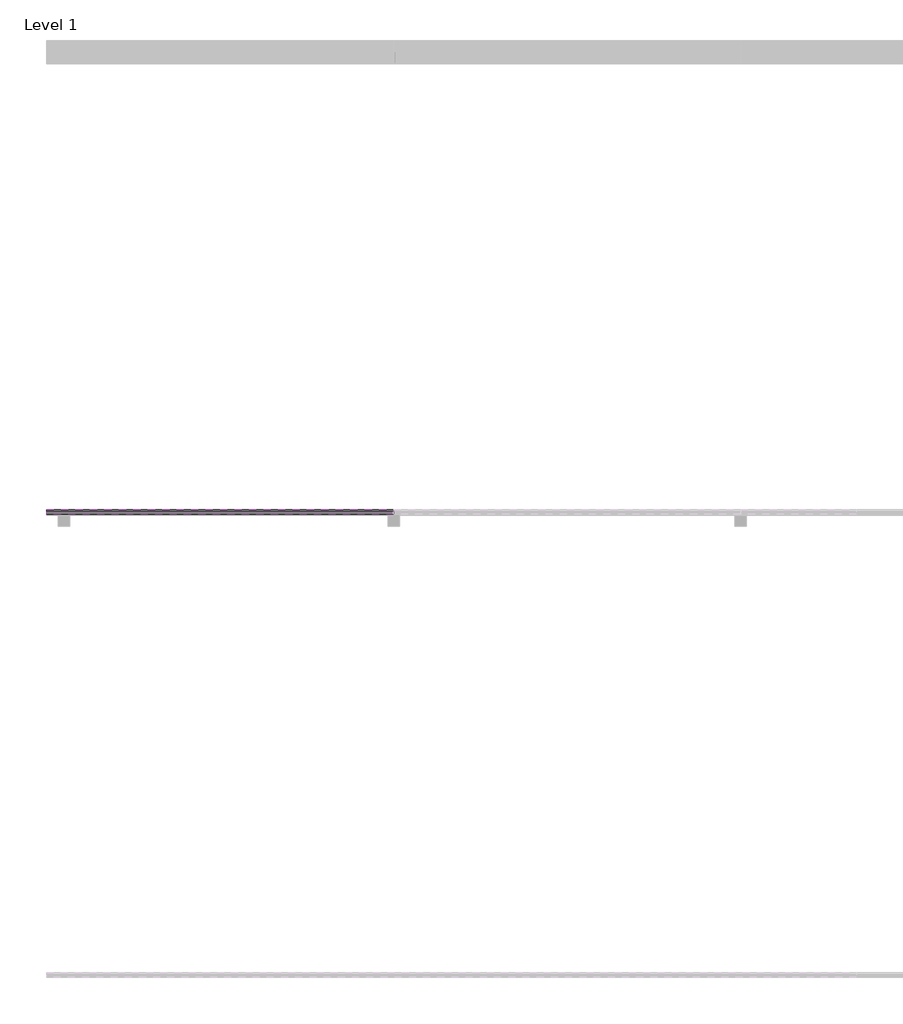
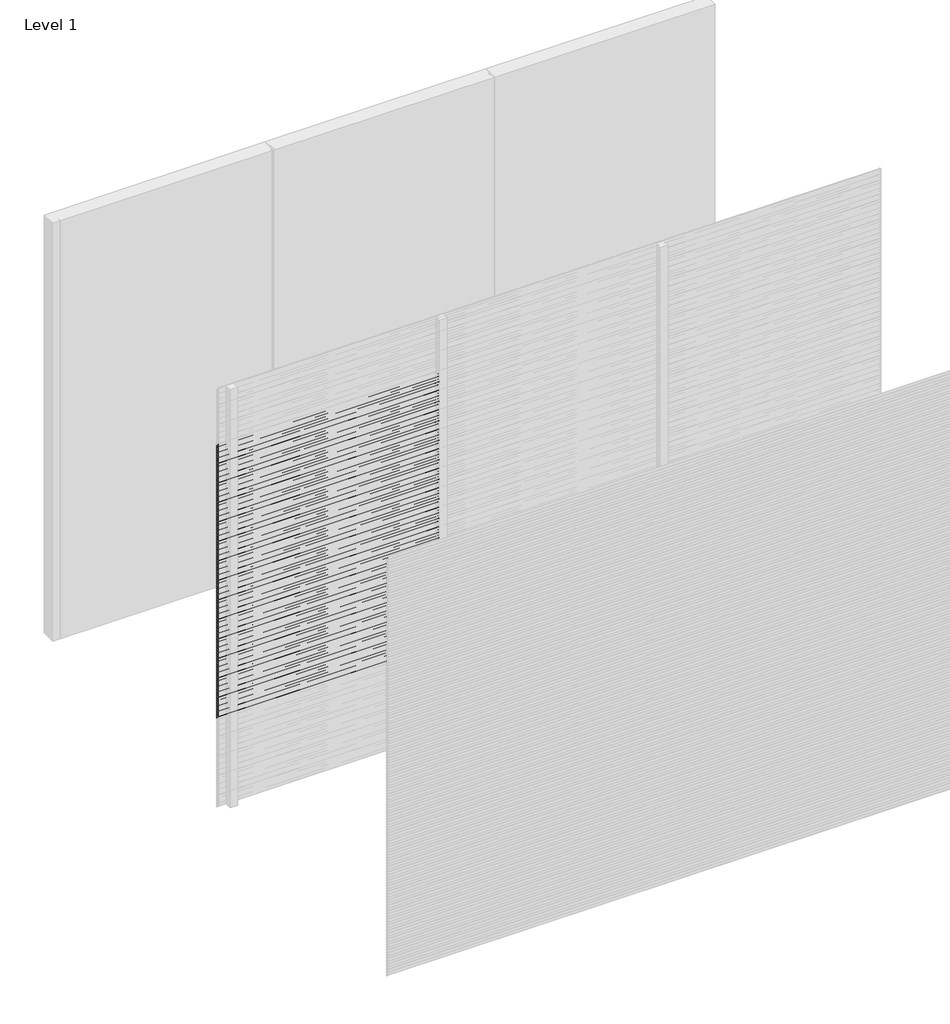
# One storey, part 11 of 31: 98 proxies.
"""IFC4 building model written with IfcOpenShell, lengths in millimetres."""

from ifc_helpers import new_model, si_unit, frame, origin, place, context, project, spatial, polyline, outline, extrude, element, save

model = new_model("IFC4")

# Units and contexts
model_context = context("Model", 3, world=origin())
ifc_project = project(units=[si_unit("LENGTHUNIT", "METRE", prefix="MILLI")], contexts=[model_context])

# Site, building, storey
site = spatial("IfcSite", under=ifc_project)
building = spatial("IfcBuilding", under=site)
storey = spatial("IfcBuildingStorey", under=building, Name="Level 1", Elevation=0.0)

# Proxies
placement = place(None, origin())
element("IfcBuildingElementProxy", 1, Name="Wall Sweeps", at=placement, inside=storey, context=model_context, shape_type="SweptSolid", body=[
    extrude(outline(polyline([(-11995.0, 2600.0), (-11995.0, 2588.942893), (-11976.0, 2573.0), (-11976.0, 2560.0), (-11997.0, 2577.6210923), (-11997.0, 2600.0), (-11995.0, 2600.0)])), frame((0.0, 0.0, 0.0), z_axis=(1.0, 0.0, 0.0), x_axis=(0.0, 1.0, 0.0)), (0.0, 0.0, 1.0), 1500.0),
])
element("IfcBuildingElementProxy", 2, Name="Wall Sweeps", at=placement, inside=storey, context=model_context, shape_type="SweptSolid", body=[
    extrude(outline(polyline([(-11995.0, 2580.0), (-11995.0, 2568.942893), (-11976.0, 2553.0), (-11976.0, 2540.0), (-11997.0, 2557.6210923), (-11997.0, 2580.0), (-11995.0, 2580.0)])), frame((0.0, 0.0, 0.0), z_axis=(1.0, 0.0, 0.0), x_axis=(0.0, 1.0, 0.0)), (0.0, 0.0, 1.0), 1500.0),
])
element("IfcBuildingElementProxy", 3, Name="Wall Sweeps", at=placement, inside=storey, context=model_context, shape_type="SweptSolid", body=[
    extrude(outline(polyline([(-11995.0, 2560.0), (-11995.0, 2548.942893), (-11976.0, 2533.0), (-11976.0, 2520.0), (-11997.0, 2537.6210923), (-11997.0, 2560.0), (-11995.0, 2560.0)])), frame((0.0, 0.0, 0.0), z_axis=(1.0, 0.0, 0.0), x_axis=(0.0, 1.0, 0.0)), (0.0, 0.0, 1.0), 1500.0),
])
element("IfcBuildingElementProxy", 4, Name="Wall Sweeps", at=placement, inside=storey, context=model_context, shape_type="SweptSolid", body=[
    extrude(outline(polyline([(-11995.0, 2540.0), (-11995.0, 2528.942893), (-11976.0, 2513.0), (-11976.0, 2500.0), (-11997.0, 2517.6210923), (-11997.0, 2540.0), (-11995.0, 2540.0)])), frame((0.0, 0.0, 0.0), z_axis=(1.0, 0.0, 0.0), x_axis=(0.0, 1.0, 0.0)), (0.0, 0.0, 1.0), 1500.0),
])
element("IfcBuildingElementProxy", 5, Name="Wall Sweeps", at=placement, inside=storey, context=model_context, shape_type="SweptSolid", body=[
    extrude(outline(polyline([(-11995.0, 2520.0), (-11995.0, 2508.942893), (-11976.0, 2493.0), (-11976.0, 2480.0), (-11997.0, 2497.6210923), (-11997.0, 2520.0), (-11995.0, 2520.0)])), frame((0.0, 0.0, 0.0), z_axis=(1.0, 0.0, 0.0), x_axis=(0.0, 1.0, 0.0)), (0.0, 0.0, 1.0), 1500.0),
])
element("IfcBuildingElementProxy", 6, Name="Wall Sweeps", at=placement, inside=storey, context=model_context, shape_type="SweptSolid", body=[
    extrude(outline(polyline([(-11995.0, 2500.0), (-11995.0, 2488.942893), (-11976.0, 2473.0), (-11976.0, 2460.0), (-11997.0, 2477.6210923), (-11997.0, 2500.0), (-11995.0, 2500.0)])), frame((0.0, 0.0, 0.0), z_axis=(1.0, 0.0, 0.0), x_axis=(0.0, 1.0, 0.0)), (0.0, 0.0, 1.0), 1500.0),
])
element("IfcBuildingElementProxy", 7, Name="Wall Sweeps", at=placement, inside=storey, context=model_context, shape_type="SweptSolid", body=[
    extrude(outline(polyline([(-11995.0, 2480.0), (-11995.0, 2468.942893), (-11976.0, 2453.0), (-11976.0, 2440.0), (-11997.0, 2457.6210923), (-11997.0, 2480.0), (-11995.0, 2480.0)])), frame((0.0, 0.0, 0.0), z_axis=(1.0, 0.0, 0.0), x_axis=(0.0, 1.0, 0.0)), (0.0, 0.0, 1.0), 1500.0),
])
element("IfcBuildingElementProxy", 8, Name="Wall Sweeps", at=placement, inside=storey, context=model_context, shape_type="SweptSolid", body=[
    extrude(outline(polyline([(-11995.0, 2460.0), (-11995.0, 2448.942893), (-11976.0, 2433.0), (-11976.0, 2420.0), (-11997.0, 2437.6210923), (-11997.0, 2460.0), (-11995.0, 2460.0)])), frame((0.0, 0.0, 0.0), z_axis=(1.0, 0.0, 0.0), x_axis=(0.0, 1.0, 0.0)), (0.0, 0.0, 1.0), 1500.0),
])
element("IfcBuildingElementProxy", 9, Name="Wall Sweeps", at=placement, inside=storey, context=model_context, shape_type="SweptSolid", body=[
    extrude(outline(polyline([(-11995.0, 2440.0), (-11995.0, 2428.942893), (-11976.0, 2413.0), (-11976.0, 2400.0), (-11997.0, 2417.6210923), (-11997.0, 2440.0), (-11995.0, 2440.0)])), frame((0.0, 0.0, 0.0), z_axis=(1.0, 0.0, 0.0), x_axis=(0.0, 1.0, 0.0)), (0.0, 0.0, 1.0), 1500.0),
])
element("IfcBuildingElementProxy", 10, Name="Wall Sweeps", at=placement, inside=storey, context=model_context, shape_type="SweptSolid", body=[
    extrude(outline(polyline([(-11995.0, 2420.0), (-11995.0, 2408.942893), (-11976.0, 2393.0), (-11976.0, 2380.0), (-11997.0, 2397.6210923), (-11997.0, 2420.0), (-11995.0, 2420.0)])), frame((0.0, 0.0, 0.0), z_axis=(1.0, 0.0, 0.0), x_axis=(0.0, 1.0, 0.0)), (0.0, 0.0, 1.0), 1500.0),
])
element("IfcBuildingElementProxy", 11, Name="Wall Sweeps", at=placement, inside=storey, context=model_context, shape_type="SweptSolid", body=[
    extrude(outline(polyline([(-11995.0, 2400.0), (-11995.0, 2388.942893), (-11976.0, 2373.0), (-11976.0, 2360.0), (-11997.0, 2377.6210923), (-11997.0, 2400.0), (-11995.0, 2400.0)])), frame((0.0, 0.0, 0.0), z_axis=(1.0, 0.0, 0.0), x_axis=(0.0, 1.0, 0.0)), (0.0, 0.0, 1.0), 1500.0),
])
element("IfcBuildingElementProxy", 12, Name="Wall Sweeps", at=placement, inside=storey, context=model_context, shape_type="SweptSolid", body=[
    extrude(outline(polyline([(-11995.0, 2380.0), (-11995.0, 2368.942893), (-11976.0, 2353.0), (-11976.0, 2340.0), (-11997.0, 2357.6210923), (-11997.0, 2380.0), (-11995.0, 2380.0)])), frame((0.0, 0.0, 0.0), z_axis=(1.0, 0.0, 0.0), x_axis=(0.0, 1.0, 0.0)), (0.0, 0.0, 1.0), 1500.0),
])
element("IfcBuildingElementProxy", 13, Name="Wall Sweeps", at=placement, inside=storey, context=model_context, shape_type="SweptSolid", body=[
    extrude(outline(polyline([(-11995.0, 2360.0), (-11995.0, 2348.942893), (-11976.0, 2333.0), (-11976.0, 2320.0), (-11997.0, 2337.6210923), (-11997.0, 2360.0), (-11995.0, 2360.0)])), frame((0.0, 0.0, 0.0), z_axis=(1.0, 0.0, 0.0), x_axis=(0.0, 1.0, 0.0)), (0.0, 0.0, 1.0), 1500.0),
])
element("IfcBuildingElementProxy", 14, Name="Wall Sweeps", at=placement, inside=storey, context=model_context, shape_type="SweptSolid", body=[
    extrude(outline(polyline([(-11995.0, 2340.0), (-11995.0, 2328.942893), (-11976.0, 2313.0), (-11976.0, 2300.0), (-11997.0, 2317.6210923), (-11997.0, 2340.0), (-11995.0, 2340.0)])), frame((0.0, 0.0, 0.0), z_axis=(1.0, 0.0, 0.0), x_axis=(0.0, 1.0, 0.0)), (0.0, 0.0, 1.0), 1500.0),
])
element("IfcBuildingElementProxy", 15, Name="Wall Sweeps", at=placement, inside=storey, context=model_context, shape_type="SweptSolid", body=[
    extrude(outline(polyline([(-11995.0, 2320.0), (-11995.0, 2308.942893), (-11976.0, 2293.0), (-11976.0, 2280.0), (-11997.0, 2297.6210923), (-11997.0, 2320.0), (-11995.0, 2320.0)])), frame((0.0, 0.0, 0.0), z_axis=(1.0, 0.0, 0.0), x_axis=(0.0, 1.0, 0.0)), (0.0, 0.0, 1.0), 1500.0),
])
element("IfcBuildingElementProxy", 16, Name="Wall Sweeps", at=placement, inside=storey, context=model_context, shape_type="SweptSolid", body=[
    extrude(outline(polyline([(-11995.0, 2300.0), (-11995.0, 2288.942893), (-11976.0, 2273.0), (-11976.0, 2260.0), (-11997.0, 2277.6210923), (-11997.0, 2300.0), (-11995.0, 2300.0)])), frame((0.0, 0.0, 0.0), z_axis=(1.0, 0.0, 0.0), x_axis=(0.0, 1.0, 0.0)), (0.0, 0.0, 1.0), 1500.0),
])
element("IfcBuildingElementProxy", 17, Name="Wall Sweeps", at=placement, inside=storey, context=model_context, shape_type="SweptSolid", body=[
    extrude(outline(polyline([(-11995.0, 2280.0), (-11995.0, 2268.942893), (-11976.0, 2253.0), (-11976.0, 2240.0), (-11997.0, 2257.6210923), (-11997.0, 2280.0), (-11995.0, 2280.0)])), frame((0.0, 0.0, 0.0), z_axis=(1.0, 0.0, 0.0), x_axis=(0.0, 1.0, 0.0)), (0.0, 0.0, 1.0), 1500.0),
])
element("IfcBuildingElementProxy", 18, Name="Wall Sweeps", at=placement, inside=storey, context=model_context, shape_type="SweptSolid", body=[
    extrude(outline(polyline([(-11995.0, 2260.0), (-11995.0, 2248.942893), (-11976.0, 2233.0), (-11976.0, 2220.0), (-11997.0, 2237.6210923), (-11997.0, 2260.0), (-11995.0, 2260.0)])), frame((0.0, 0.0, 0.0), z_axis=(1.0, 0.0, 0.0), x_axis=(0.0, 1.0, 0.0)), (0.0, 0.0, 1.0), 1500.0),
])
element("IfcBuildingElementProxy", 19, Name="Wall Sweeps", at=placement, inside=storey, context=model_context, shape_type="SweptSolid", body=[
    extrude(outline(polyline([(-11995.0, 2240.0), (-11995.0, 2228.942893), (-11976.0, 2213.0), (-11976.0, 2200.0), (-11997.0, 2217.6210923), (-11997.0, 2240.0), (-11995.0, 2240.0)])), frame((0.0, 0.0, 0.0), z_axis=(1.0, 0.0, 0.0), x_axis=(0.0, 1.0, 0.0)), (0.0, 0.0, 1.0), 1500.0),
])
element("IfcBuildingElementProxy", 20, Name="Wall Sweeps", at=placement, inside=storey, context=model_context, shape_type="SweptSolid", body=[
    extrude(outline(polyline([(-11995.0, 2220.0), (-11995.0, 2208.942893), (-11976.0, 2193.0), (-11976.0, 2180.0), (-11997.0, 2197.6210923), (-11997.0, 2220.0), (-11995.0, 2220.0)])), frame((0.0, 0.0, 0.0), z_axis=(1.0, 0.0, 0.0), x_axis=(0.0, 1.0, 0.0)), (0.0, 0.0, 1.0), 1500.0),
])
element("IfcBuildingElementProxy", 21, Name="Wall Sweeps", at=placement, inside=storey, context=model_context, shape_type="SweptSolid", body=[
    extrude(outline(polyline([(-11995.0, 2200.0), (-11995.0, 2188.942893), (-11976.0, 2173.0), (-11976.0, 2160.0), (-11997.0, 2177.6210923), (-11997.0, 2200.0), (-11995.0, 2200.0)])), frame((0.0, 0.0, 0.0), z_axis=(1.0, 0.0, 0.0), x_axis=(0.0, 1.0, 0.0)), (0.0, 0.0, 1.0), 1500.0),
])
element("IfcBuildingElementProxy", 22, Name="Wall Sweeps", at=placement, inside=storey, context=model_context, shape_type="SweptSolid", body=[
    extrude(outline(polyline([(-11995.0, 2180.0), (-11995.0, 2168.942893), (-11976.0, 2153.0), (-11976.0, 2140.0), (-11997.0, 2157.6210923), (-11997.0, 2180.0), (-11995.0, 2180.0)])), frame((0.0, 0.0, 0.0), z_axis=(1.0, 0.0, 0.0), x_axis=(0.0, 1.0, 0.0)), (0.0, 0.0, 1.0), 1500.0),
])
element("IfcBuildingElementProxy", 23, Name="Wall Sweeps", at=placement, inside=storey, context=model_context, shape_type="SweptSolid", body=[
    extrude(outline(polyline([(-11995.0, 2160.0), (-11995.0, 2148.942893), (-11976.0, 2133.0), (-11976.0, 2120.0), (-11997.0, 2137.6210923), (-11997.0, 2160.0), (-11995.0, 2160.0)])), frame((0.0, 0.0, 0.0), z_axis=(1.0, 0.0, 0.0), x_axis=(0.0, 1.0, 0.0)), (0.0, 0.0, 1.0), 1500.0),
])
element("IfcBuildingElementProxy", 24, Name="Wall Sweeps", at=placement, inside=storey, context=model_context, shape_type="SweptSolid", body=[
    extrude(outline(polyline([(-11995.0, 2140.0), (-11995.0, 2128.942893), (-11976.0, 2113.0), (-11976.0, 2100.0), (-11997.0, 2117.6210923), (-11997.0, 2140.0), (-11995.0, 2140.0)])), frame((0.0, 0.0, 0.0), z_axis=(1.0, 0.0, 0.0), x_axis=(0.0, 1.0, 0.0)), (0.0, 0.0, 1.0), 1500.0),
])
element("IfcBuildingElementProxy", 25, Name="Wall Sweeps", at=placement, inside=storey, context=model_context, shape_type="SweptSolid", body=[
    extrude(outline(polyline([(-11995.0, 2120.0), (-11995.0, 2108.942893), (-11976.0, 2093.0), (-11976.0, 2080.0), (-11997.0, 2097.6210923), (-11997.0, 2120.0), (-11995.0, 2120.0)])), frame((0.0, 0.0, 0.0), z_axis=(1.0, 0.0, 0.0), x_axis=(0.0, 1.0, 0.0)), (0.0, 0.0, 1.0), 1500.0),
])
element("IfcBuildingElementProxy", 26, Name="Wall Sweeps", at=placement, inside=storey, context=model_context, shape_type="SweptSolid", body=[
    extrude(outline(polyline([(-11995.0, 2100.0), (-11995.0, 2088.942893), (-11976.0, 2073.0), (-11976.0, 2060.0), (-11997.0, 2077.6210923), (-11997.0, 2100.0), (-11995.0, 2100.0)])), frame((0.0, 0.0, 0.0), z_axis=(1.0, 0.0, 0.0), x_axis=(0.0, 1.0, 0.0)), (0.0, 0.0, 1.0), 1500.0),
])
element("IfcBuildingElementProxy", 27, Name="Wall Sweeps", at=placement, inside=storey, context=model_context, shape_type="SweptSolid", body=[
    extrude(outline(polyline([(-11995.0, 2080.0), (-11995.0, 2068.942893), (-11976.0, 2053.0), (-11976.0, 2040.0), (-11997.0, 2057.6210923), (-11997.0, 2080.0), (-11995.0, 2080.0)])), frame((0.0, 0.0, 0.0), z_axis=(1.0, 0.0, 0.0), x_axis=(0.0, 1.0, 0.0)), (0.0, 0.0, 1.0), 1500.0),
])
element("IfcBuildingElementProxy", 28, Name="Wall Sweeps", at=placement, inside=storey, context=model_context, shape_type="SweptSolid", body=[
    extrude(outline(polyline([(-11995.0, 2060.0), (-11995.0, 2048.942893), (-11976.0, 2033.0), (-11976.0, 2020.0), (-11997.0, 2037.6210923), (-11997.0, 2060.0), (-11995.0, 2060.0)])), frame((0.0, 0.0, 0.0), z_axis=(1.0, 0.0, 0.0), x_axis=(0.0, 1.0, 0.0)), (0.0, 0.0, 1.0), 1500.0),
])
element("IfcBuildingElementProxy", 29, Name="Wall Sweeps", at=placement, inside=storey, context=model_context, shape_type="SweptSolid", body=[
    extrude(outline(polyline([(-11995.0, 2040.0), (-11995.0, 2028.942893), (-11976.0, 2013.0), (-11976.0, 2000.0), (-11997.0, 2017.6210923), (-11997.0, 2040.0), (-11995.0, 2040.0)])), frame((0.0, 0.0, 0.0), z_axis=(1.0, 0.0, 0.0), x_axis=(0.0, 1.0, 0.0)), (0.0, 0.0, 1.0), 1500.0),
])
element("IfcBuildingElementProxy", 30, Name="Wall Sweeps", at=placement, inside=storey, context=model_context, shape_type="SweptSolid", body=[
    extrude(outline(polyline([(-11995.0, 2020.0), (-11995.0, 2008.942893), (-11976.0, 1993.0), (-11976.0, 1980.0), (-11997.0, 1997.6210923), (-11997.0, 2020.0), (-11995.0, 2020.0)])), frame((0.0, 0.0, 0.0), z_axis=(1.0, 0.0, 0.0), x_axis=(0.0, 1.0, 0.0)), (0.0, 0.0, 1.0), 1500.0),
])
element("IfcBuildingElementProxy", 31, Name="Wall Sweeps", at=placement, inside=storey, context=model_context, shape_type="SweptSolid", body=[
    extrude(outline(polyline([(-11995.0, 2000.0), (-11995.0, 1988.942893), (-11976.0, 1973.0), (-11976.0, 1960.0), (-11997.0, 1977.6210923), (-11997.0, 2000.0), (-11995.0, 2000.0)])), frame((0.0, 0.0, 0.0), z_axis=(1.0, 0.0, 0.0), x_axis=(0.0, 1.0, 0.0)), (0.0, 0.0, 1.0), 1500.0),
])
element("IfcBuildingElementProxy", 32, Name="Wall Sweeps", at=placement, inside=storey, context=model_context, shape_type="SweptSolid", body=[
    extrude(outline(polyline([(-11995.0, 1980.0), (-11995.0, 1968.942893), (-11976.0, 1953.0), (-11976.0, 1940.0), (-11997.0, 1957.6210923), (-11997.0, 1980.0), (-11995.0, 1980.0)])), frame((0.0, 0.0, 0.0), z_axis=(1.0, 0.0, 0.0), x_axis=(0.0, 1.0, 0.0)), (0.0, 0.0, 1.0), 1500.0),
])
element("IfcBuildingElementProxy", 33, Name="Wall Sweeps", at=placement, inside=storey, context=model_context, shape_type="SweptSolid", body=[
    extrude(outline(polyline([(-11995.0, 1960.0), (-11995.0, 1948.942893), (-11976.0, 1933.0), (-11976.0, 1920.0), (-11997.0, 1937.6210923), (-11997.0, 1960.0), (-11995.0, 1960.0)])), frame((0.0, 0.0, 0.0), z_axis=(1.0, 0.0, 0.0), x_axis=(0.0, 1.0, 0.0)), (0.0, 0.0, 1.0), 1500.0),
])
element("IfcBuildingElementProxy", 34, Name="Wall Sweeps", at=placement, inside=storey, context=model_context, shape_type="SweptSolid", body=[
    extrude(outline(polyline([(-11995.0, 1940.0), (-11995.0, 1928.942893), (-11976.0, 1913.0), (-11976.0, 1900.0), (-11997.0, 1917.6210923), (-11997.0, 1940.0), (-11995.0, 1940.0)])), frame((0.0, 0.0, 0.0), z_axis=(1.0, 0.0, 0.0), x_axis=(0.0, 1.0, 0.0)), (0.0, 0.0, 1.0), 1500.0),
])
element("IfcBuildingElementProxy", 35, Name="Wall Sweeps", at=placement, inside=storey, context=model_context, shape_type="SweptSolid", body=[
    extrude(outline(polyline([(-11995.0, 1920.0), (-11995.0, 1908.942893), (-11976.0, 1893.0), (-11976.0, 1880.0), (-11997.0, 1897.6210923), (-11997.0, 1920.0), (-11995.0, 1920.0)])), frame((0.0, 0.0, 0.0), z_axis=(1.0, 0.0, 0.0), x_axis=(0.0, 1.0, 0.0)), (0.0, 0.0, 1.0), 1500.0),
])
element("IfcBuildingElementProxy", 36, Name="Wall Sweeps", at=placement, inside=storey, context=model_context, shape_type="SweptSolid", body=[
    extrude(outline(polyline([(-11995.0, 1900.0), (-11995.0, 1888.942893), (-11976.0, 1873.0), (-11976.0, 1860.0), (-11997.0, 1877.6210923), (-11997.0, 1900.0), (-11995.0, 1900.0)])), frame((0.0, 0.0, 0.0), z_axis=(1.0, 0.0, 0.0), x_axis=(0.0, 1.0, 0.0)), (0.0, 0.0, 1.0), 1500.0),
])
element("IfcBuildingElementProxy", 37, Name="Wall Sweeps", at=placement, inside=storey, context=model_context, shape_type="SweptSolid", body=[
    extrude(outline(polyline([(-11995.0, 1880.0), (-11995.0, 1868.942893), (-11976.0, 1853.0), (-11976.0, 1840.0), (-11997.0, 1857.6210923), (-11997.0, 1880.0), (-11995.0, 1880.0)])), frame((0.0, 0.0, 0.0), z_axis=(1.0, 0.0, 0.0), x_axis=(0.0, 1.0, 0.0)), (0.0, 0.0, 1.0), 1500.0),
])
element("IfcBuildingElementProxy", 38, Name="Wall Sweeps", at=placement, inside=storey, context=model_context, shape_type="SweptSolid", body=[
    extrude(outline(polyline([(-11995.0, 1860.0), (-11995.0, 1848.942893), (-11976.0, 1833.0), (-11976.0, 1820.0), (-11997.0, 1837.6210923), (-11997.0, 1860.0), (-11995.0, 1860.0)])), frame((0.0, 0.0, 0.0), z_axis=(1.0, 0.0, 0.0), x_axis=(0.0, 1.0, 0.0)), (0.0, 0.0, 1.0), 1500.0),
])
element("IfcBuildingElementProxy", 39, Name="Wall Sweeps", at=placement, inside=storey, context=model_context, shape_type="SweptSolid", body=[
    extrude(outline(polyline([(-11995.0, 1840.0), (-11995.0, 1828.942893), (-11976.0, 1813.0), (-11976.0, 1800.0), (-11997.0, 1817.6210923), (-11997.0, 1840.0), (-11995.0, 1840.0)])), frame((0.0, 0.0, 0.0), z_axis=(1.0, 0.0, 0.0), x_axis=(0.0, 1.0, 0.0)), (0.0, 0.0, 1.0), 1500.0),
])
element("IfcBuildingElementProxy", 40, Name="Wall Sweeps", at=placement, inside=storey, context=model_context, shape_type="SweptSolid", body=[
    extrude(outline(polyline([(-11995.0, 1820.0), (-11995.0, 1808.942893), (-11976.0, 1793.0), (-11976.0, 1780.0), (-11997.0, 1797.6210923), (-11997.0, 1820.0), (-11995.0, 1820.0)])), frame((0.0, 0.0, 0.0), z_axis=(1.0, 0.0, 0.0), x_axis=(0.0, 1.0, 0.0)), (0.0, 0.0, 1.0), 1500.0),
])
element("IfcBuildingElementProxy", 41, Name="Wall Sweeps", at=placement, inside=storey, context=model_context, shape_type="SweptSolid", body=[
    extrude(outline(polyline([(-11995.0, 1800.0), (-11995.0, 1788.942893), (-11976.0, 1773.0), (-11976.0, 1760.0), (-11997.0, 1777.6210923), (-11997.0, 1800.0), (-11995.0, 1800.0)])), frame((0.0, 0.0, 0.0), z_axis=(1.0, 0.0, 0.0), x_axis=(0.0, 1.0, 0.0)), (0.0, 0.0, 1.0), 1500.0),
])
element("IfcBuildingElementProxy", 42, Name="Wall Sweeps", at=placement, inside=storey, context=model_context, shape_type="SweptSolid", body=[
    extrude(outline(polyline([(-11995.0, 1780.0), (-11995.0, 1768.942893), (-11976.0, 1753.0), (-11976.0, 1740.0), (-11997.0, 1757.6210923), (-11997.0, 1780.0), (-11995.0, 1780.0)])), frame((0.0, 0.0, 0.0), z_axis=(1.0, 0.0, 0.0), x_axis=(0.0, 1.0, 0.0)), (0.0, 0.0, 1.0), 1500.0),
])
element("IfcBuildingElementProxy", 43, Name="Wall Sweeps", at=placement, inside=storey, context=model_context, shape_type="SweptSolid", body=[
    extrude(outline(polyline([(-11995.0, 1760.0), (-11995.0, 1748.942893), (-11976.0, 1733.0), (-11976.0, 1720.0), (-11997.0, 1737.6210923), (-11997.0, 1760.0), (-11995.0, 1760.0)])), frame((0.0, 0.0, 0.0), z_axis=(1.0, 0.0, 0.0), x_axis=(0.0, 1.0, 0.0)), (0.0, 0.0, 1.0), 1500.0),
])
element("IfcBuildingElementProxy", 44, Name="Wall Sweeps", at=placement, inside=storey, context=model_context, shape_type="SweptSolid", body=[
    extrude(outline(polyline([(-11995.0, 1740.0), (-11995.0, 1728.942893), (-11976.0, 1713.0), (-11976.0, 1700.0), (-11997.0, 1717.6210923), (-11997.0, 1740.0), (-11995.0, 1740.0)])), frame((0.0, 0.0, 0.0), z_axis=(1.0, 0.0, 0.0), x_axis=(0.0, 1.0, 0.0)), (0.0, 0.0, 1.0), 1500.0),
])
element("IfcBuildingElementProxy", 45, Name="Wall Sweeps", at=placement, inside=storey, context=model_context, shape_type="SweptSolid", body=[
    extrude(outline(polyline([(-11995.0, 1720.0), (-11995.0, 1708.942893), (-11976.0, 1693.0), (-11976.0, 1680.0), (-11997.0, 1697.6210923), (-11997.0, 1720.0), (-11995.0, 1720.0)])), frame((0.0, 0.0, 0.0), z_axis=(1.0, 0.0, 0.0), x_axis=(0.0, 1.0, 0.0)), (0.0, 0.0, 1.0), 1500.0),
])
element("IfcBuildingElementProxy", 46, Name="Wall Sweeps", at=placement, inside=storey, context=model_context, shape_type="SweptSolid", body=[
    extrude(outline(polyline([(-11995.0, 1700.0), (-11995.0, 1688.942893), (-11976.0, 1673.0), (-11976.0, 1660.0), (-11997.0, 1677.6210923), (-11997.0, 1700.0), (-11995.0, 1700.0)])), frame((0.0, 0.0, 0.0), z_axis=(1.0, 0.0, 0.0), x_axis=(0.0, 1.0, 0.0)), (0.0, 0.0, 1.0), 1500.0),
])
element("IfcBuildingElementProxy", 47, Name="Wall Sweeps", at=placement, inside=storey, context=model_context, shape_type="SweptSolid", body=[
    extrude(outline(polyline([(-11995.0, 1680.0), (-11995.0, 1668.942893), (-11976.0, 1653.0), (-11976.0, 1640.0), (-11997.0, 1657.6210923), (-11997.0, 1680.0), (-11995.0, 1680.0)])), frame((0.0, 0.0, 0.0), z_axis=(1.0, 0.0, 0.0), x_axis=(0.0, 1.0, 0.0)), (0.0, 0.0, 1.0), 1500.0),
])
element("IfcBuildingElementProxy", 48, Name="Wall Sweeps", at=placement, inside=storey, context=model_context, shape_type="SweptSolid", body=[
    extrude(outline(polyline([(-11995.0, 1660.0), (-11995.0, 1648.942893), (-11976.0, 1633.0), (-11976.0, 1620.0), (-11997.0, 1637.6210923), (-11997.0, 1660.0), (-11995.0, 1660.0)])), frame((0.0, 0.0, 0.0), z_axis=(1.0, 0.0, 0.0), x_axis=(0.0, 1.0, 0.0)), (0.0, 0.0, 1.0), 1500.0),
])
element("IfcBuildingElementProxy", 49, Name="Wall Sweeps", at=placement, inside=storey, context=model_context, shape_type="SweptSolid", body=[
    extrude(outline(polyline([(-11995.0, 1640.0), (-11995.0, 1628.942893), (-11976.0, 1613.0), (-11976.0, 1600.0), (-11997.0, 1617.6210923), (-11997.0, 1640.0), (-11995.0, 1640.0)])), frame((0.0, 0.0, 0.0), z_axis=(1.0, 0.0, 0.0), x_axis=(0.0, 1.0, 0.0)), (0.0, 0.0, 1.0), 1500.0),
])
element("IfcBuildingElementProxy", 50, Name="Wall Sweeps", at=placement, inside=storey, context=model_context, shape_type="SweptSolid", body=[
    extrude(outline(polyline([(-11995.0, 1620.0), (-11995.0, 1608.942893), (-11976.0, 1593.0), (-11976.0, 1580.0), (-11997.0, 1597.6210923), (-11997.0, 1620.0), (-11995.0, 1620.0)])), frame((0.0, 0.0, 0.0), z_axis=(1.0, 0.0, 0.0), x_axis=(0.0, 1.0, 0.0)), (0.0, 0.0, 1.0), 1500.0),
])
element("IfcBuildingElementProxy", 51, Name="Wall Sweeps", at=placement, inside=storey, context=model_context, shape_type="SweptSolid", body=[
    extrude(outline(polyline([(-11995.0, 1600.0), (-11995.0, 1588.942893), (-11976.0, 1573.0), (-11976.0, 1560.0), (-11997.0, 1577.6210923), (-11997.0, 1600.0), (-11995.0, 1600.0)])), frame((0.0, 0.0, 0.0), z_axis=(1.0, 0.0, 0.0), x_axis=(0.0, 1.0, 0.0)), (0.0, 0.0, 1.0), 1500.0),
])
element("IfcBuildingElementProxy", 52, Name="Wall Sweeps", at=placement, inside=storey, context=model_context, shape_type="SweptSolid", body=[
    extrude(outline(polyline([(-11995.0, 1580.0), (-11995.0, 1568.942893), (-11976.0, 1553.0), (-11976.0, 1540.0), (-11997.0, 1557.6210923), (-11997.0, 1580.0), (-11995.0, 1580.0)])), frame((0.0, 0.0, 0.0), z_axis=(1.0, 0.0, 0.0), x_axis=(0.0, 1.0, 0.0)), (0.0, 0.0, 1.0), 1500.0),
])
element("IfcBuildingElementProxy", 53, Name="Wall Sweeps", at=placement, inside=storey, context=model_context, shape_type="SweptSolid", body=[
    extrude(outline(polyline([(-11995.0, 1560.0), (-11995.0, 1548.942893), (-11976.0, 1533.0), (-11976.0, 1520.0), (-11997.0, 1537.6210923), (-11997.0, 1560.0), (-11995.0, 1560.0)])), frame((0.0, 0.0, 0.0), z_axis=(1.0, 0.0, 0.0), x_axis=(0.0, 1.0, 0.0)), (0.0, 0.0, 1.0), 1500.0),
])
element("IfcBuildingElementProxy", 54, Name="Wall Sweeps", at=placement, inside=storey, context=model_context, shape_type="SweptSolid", body=[
    extrude(outline(polyline([(-11995.0, 1540.0), (-11995.0, 1528.942893), (-11976.0, 1513.0), (-11976.0, 1500.0), (-11997.0, 1517.6210923), (-11997.0, 1540.0), (-11995.0, 1540.0)])), frame((0.0, 0.0, 0.0), z_axis=(1.0, 0.0, 0.0), x_axis=(0.0, 1.0, 0.0)), (0.0, 0.0, 1.0), 1500.0),
])
element("IfcBuildingElementProxy", 55, Name="Wall Sweeps", at=placement, inside=storey, context=model_context, shape_type="SweptSolid", body=[
    extrude(outline(polyline([(-11995.0, 1520.0), (-11995.0, 1508.942893), (-11976.0, 1493.0), (-11976.0, 1480.0), (-11997.0, 1497.6210923), (-11997.0, 1520.0), (-11995.0, 1520.0)])), frame((0.0, 0.0, 0.0), z_axis=(1.0, 0.0, 0.0), x_axis=(0.0, 1.0, 0.0)), (0.0, 0.0, 1.0), 1500.0),
])
element("IfcBuildingElementProxy", 56, Name="Wall Sweeps", at=placement, inside=storey, context=model_context, shape_type="SweptSolid", body=[
    extrude(outline(polyline([(-11995.0, 1500.0), (-11995.0, 1488.942893), (-11976.0, 1473.0), (-11976.0, 1460.0), (-11997.0, 1477.6210923), (-11997.0, 1500.0), (-11995.0, 1500.0)])), frame((0.0, 0.0, 0.0), z_axis=(1.0, 0.0, 0.0), x_axis=(0.0, 1.0, 0.0)), (0.0, 0.0, 1.0), 1500.0),
])
element("IfcBuildingElementProxy", 57, Name="Wall Sweeps", at=placement, inside=storey, context=model_context, shape_type="SweptSolid", body=[
    extrude(outline(polyline([(-11995.0, 1480.0), (-11995.0, 1468.942893), (-11976.0, 1453.0), (-11976.0, 1440.0), (-11997.0, 1457.6210923), (-11997.0, 1480.0), (-11995.0, 1480.0)])), frame((0.0, 0.0, 0.0), z_axis=(1.0, 0.0, 0.0), x_axis=(0.0, 1.0, 0.0)), (0.0, 0.0, 1.0), 1500.0),
])
element("IfcBuildingElementProxy", 58, Name="Wall Sweeps", at=placement, inside=storey, context=model_context, shape_type="SweptSolid", body=[
    extrude(outline(polyline([(-11995.0, 1460.0), (-11995.0, 1448.942893), (-11976.0, 1433.0), (-11976.0, 1420.0), (-11997.0, 1437.6210923), (-11997.0, 1460.0), (-11995.0, 1460.0)])), frame((0.0, 0.0, 0.0), z_axis=(1.0, 0.0, 0.0), x_axis=(0.0, 1.0, 0.0)), (0.0, 0.0, 1.0), 1500.0),
])
element("IfcBuildingElementProxy", 59, Name="Wall Sweeps", at=placement, inside=storey, context=model_context, shape_type="SweptSolid", body=[
    extrude(outline(polyline([(-11995.0, 1440.0), (-11995.0, 1428.942893), (-11976.0, 1413.0), (-11976.0, 1400.0), (-11997.0, 1417.6210923), (-11997.0, 1440.0), (-11995.0, 1440.0)])), frame((0.0, 0.0, 0.0), z_axis=(1.0, 0.0, 0.0), x_axis=(0.0, 1.0, 0.0)), (0.0, 0.0, 1.0), 1500.0),
])
element("IfcBuildingElementProxy", 60, Name="Wall Sweeps", at=placement, inside=storey, context=model_context, shape_type="SweptSolid", body=[
    extrude(outline(polyline([(-11995.0, 1420.0), (-11995.0, 1408.942893), (-11976.0, 1393.0), (-11976.0, 1380.0), (-11997.0, 1397.6210923), (-11997.0, 1420.0), (-11995.0, 1420.0)])), frame((0.0, 0.0, 0.0), z_axis=(1.0, 0.0, 0.0), x_axis=(0.0, 1.0, 0.0)), (0.0, 0.0, 1.0), 1500.0),
])
element("IfcBuildingElementProxy", 61, Name="Wall Sweeps", at=placement, inside=storey, context=model_context, shape_type="SweptSolid", body=[
    extrude(outline(polyline([(-11995.0, 1400.0), (-11995.0, 1388.942893), (-11976.0, 1373.0), (-11976.0, 1360.0), (-11997.0, 1377.6210923), (-11997.0, 1400.0), (-11995.0, 1400.0)])), frame((0.0, 0.0, 0.0), z_axis=(1.0, 0.0, 0.0), x_axis=(0.0, 1.0, 0.0)), (0.0, 0.0, 1.0), 1500.0),
])
element("IfcBuildingElementProxy", 62, Name="Wall Sweeps", at=placement, inside=storey, context=model_context, shape_type="SweptSolid", body=[
    extrude(outline(polyline([(-11995.0, 1380.0), (-11995.0, 1368.942893), (-11976.0, 1353.0), (-11976.0, 1340.0), (-11997.0, 1357.6210923), (-11997.0, 1380.0), (-11995.0, 1380.0)])), frame((0.0, 0.0, 0.0), z_axis=(1.0, 0.0, 0.0), x_axis=(0.0, 1.0, 0.0)), (0.0, 0.0, 1.0), 1500.0),
])
element("IfcBuildingElementProxy", 63, Name="Wall Sweeps", at=placement, inside=storey, context=model_context, shape_type="SweptSolid", body=[
    extrude(outline(polyline([(-11995.0, 1360.0), (-11995.0, 1348.942893), (-11976.0, 1333.0), (-11976.0, 1320.0), (-11997.0, 1337.6210923), (-11997.0, 1360.0), (-11995.0, 1360.0)])), frame((0.0, 0.0, 0.0), z_axis=(1.0, 0.0, 0.0), x_axis=(0.0, 1.0, 0.0)), (0.0, 0.0, 1.0), 1500.0),
])
element("IfcBuildingElementProxy", 64, Name="Wall Sweeps", at=placement, inside=storey, context=model_context, shape_type="SweptSolid", body=[
    extrude(outline(polyline([(-11995.0, 1340.0), (-11995.0, 1328.942893), (-11976.0, 1313.0), (-11976.0, 1300.0), (-11997.0, 1317.6210923), (-11997.0, 1340.0), (-11995.0, 1340.0)])), frame((0.0, 0.0, 0.0), z_axis=(1.0, 0.0, 0.0), x_axis=(0.0, 1.0, 0.0)), (0.0, 0.0, 1.0), 1500.0),
])
element("IfcBuildingElementProxy", 65, Name="Wall Sweeps", at=placement, inside=storey, context=model_context, shape_type="SweptSolid", body=[
    extrude(outline(polyline([(-11995.0, 1320.0), (-11995.0, 1308.942893), (-11976.0, 1293.0), (-11976.0, 1280.0), (-11997.0, 1297.6210923), (-11997.0, 1320.0), (-11995.0, 1320.0)])), frame((0.0, 0.0, 0.0), z_axis=(1.0, 0.0, 0.0), x_axis=(0.0, 1.0, 0.0)), (0.0, 0.0, 1.0), 1500.0),
])
element("IfcBuildingElementProxy", 66, Name="Wall Sweeps", at=placement, inside=storey, context=model_context, shape_type="SweptSolid", body=[
    extrude(outline(polyline([(-11995.0, 1300.0), (-11995.0, 1288.942893), (-11976.0, 1273.0), (-11976.0, 1260.0), (-11997.0, 1277.6210923), (-11997.0, 1300.0), (-11995.0, 1300.0)])), frame((0.0, 0.0, 0.0), z_axis=(1.0, 0.0, 0.0), x_axis=(0.0, 1.0, 0.0)), (0.0, 0.0, 1.0), 1500.0),
])
element("IfcBuildingElementProxy", 67, Name="Wall Sweeps", at=placement, inside=storey, context=model_context, shape_type="SweptSolid", body=[
    extrude(outline(polyline([(-11995.0, 1280.0), (-11995.0, 1268.942893), (-11976.0, 1253.0), (-11976.0, 1240.0), (-11997.0, 1257.6210923), (-11997.0, 1280.0), (-11995.0, 1280.0)])), frame((0.0, 0.0, 0.0), z_axis=(1.0, 0.0, 0.0), x_axis=(0.0, 1.0, 0.0)), (0.0, 0.0, 1.0), 1500.0),
])
element("IfcBuildingElementProxy", 68, Name="Wall Sweeps", at=placement, inside=storey, context=model_context, shape_type="SweptSolid", body=[
    extrude(outline(polyline([(-11995.0, 1260.0), (-11995.0, 1248.942893), (-11976.0, 1233.0), (-11976.0, 1220.0), (-11997.0, 1237.6210923), (-11997.0, 1260.0), (-11995.0, 1260.0)])), frame((0.0, 0.0, 0.0), z_axis=(1.0, 0.0, 0.0), x_axis=(0.0, 1.0, 0.0)), (0.0, 0.0, 1.0), 1500.0),
])
element("IfcBuildingElementProxy", 69, Name="Wall Sweeps", at=placement, inside=storey, context=model_context, shape_type="SweptSolid", body=[
    extrude(outline(polyline([(-11995.0, 1240.0), (-11995.0, 1228.942893), (-11976.0, 1213.0), (-11976.0, 1200.0), (-11997.0, 1217.6210923), (-11997.0, 1240.0), (-11995.0, 1240.0)])), frame((0.0, 0.0, 0.0), z_axis=(1.0, 0.0, 0.0), x_axis=(0.0, 1.0, 0.0)), (0.0, 0.0, 1.0), 1500.0),
])
element("IfcBuildingElementProxy", 70, Name="Wall Sweeps", at=placement, inside=storey, context=model_context, shape_type="SweptSolid", body=[
    extrude(outline(polyline([(-11995.0, 1220.0), (-11995.0, 1208.942893), (-11976.0, 1193.0), (-11976.0, 1180.0), (-11997.0, 1197.6210923), (-11997.0, 1220.0), (-11995.0, 1220.0)])), frame((0.0, 0.0, 0.0), z_axis=(1.0, 0.0, 0.0), x_axis=(0.0, 1.0, 0.0)), (0.0, 0.0, 1.0), 1500.0),
])
element("IfcBuildingElementProxy", 71, Name="Wall Sweeps", at=placement, inside=storey, context=model_context, shape_type="SweptSolid", body=[
    extrude(outline(polyline([(-11995.0, 1200.0), (-11995.0, 1188.942893), (-11976.0, 1173.0), (-11976.0, 1160.0), (-11997.0, 1177.6210923), (-11997.0, 1200.0), (-11995.0, 1200.0)])), frame((0.0, 0.0, 0.0), z_axis=(1.0, 0.0, 0.0), x_axis=(0.0, 1.0, 0.0)), (0.0, 0.0, 1.0), 1500.0),
])
element("IfcBuildingElementProxy", 72, Name="Wall Sweeps", at=placement, inside=storey, context=model_context, shape_type="SweptSolid", body=[
    extrude(outline(polyline([(-11995.0, 1180.0), (-11995.0, 1168.942893), (-11976.0, 1153.0), (-11976.0, 1140.0), (-11997.0, 1157.6210923), (-11997.0, 1180.0), (-11995.0, 1180.0)])), frame((0.0, 0.0, 0.0), z_axis=(1.0, 0.0, 0.0), x_axis=(0.0, 1.0, 0.0)), (0.0, 0.0, 1.0), 1500.0),
])
element("IfcBuildingElementProxy", 73, Name="Wall Sweeps", at=placement, inside=storey, context=model_context, shape_type="SweptSolid", body=[
    extrude(outline(polyline([(-11995.0, 1160.0), (-11995.0, 1148.942893), (-11976.0, 1133.0), (-11976.0, 1120.0), (-11997.0, 1137.6210923), (-11997.0, 1160.0), (-11995.0, 1160.0)])), frame((0.0, 0.0, 0.0), z_axis=(1.0, 0.0, 0.0), x_axis=(0.0, 1.0, 0.0)), (0.0, 0.0, 1.0), 1500.0),
])
element("IfcBuildingElementProxy", 74, Name="Wall Sweeps", at=placement, inside=storey, context=model_context, shape_type="SweptSolid", body=[
    extrude(outline(polyline([(-11995.0, 1140.0), (-11995.0, 1128.942893), (-11976.0, 1113.0), (-11976.0, 1100.0), (-11997.0, 1117.6210923), (-11997.0, 1140.0), (-11995.0, 1140.0)])), frame((0.0, 0.0, 0.0), z_axis=(1.0, 0.0, 0.0), x_axis=(0.0, 1.0, 0.0)), (0.0, 0.0, 1.0), 1500.0),
])
element("IfcBuildingElementProxy", 75, Name="Wall Sweeps", at=placement, inside=storey, context=model_context, shape_type="SweptSolid", body=[
    extrude(outline(polyline([(-11995.0, 1120.0), (-11995.0, 1108.942893), (-11976.0, 1093.0), (-11976.0, 1080.0), (-11997.0, 1097.6210923), (-11997.0, 1120.0), (-11995.0, 1120.0)])), frame((0.0, 0.0, 0.0), z_axis=(1.0, 0.0, 0.0), x_axis=(0.0, 1.0, 0.0)), (0.0, 0.0, 1.0), 1500.0),
])
element("IfcBuildingElementProxy", 76, Name="Wall Sweeps", at=placement, inside=storey, context=model_context, shape_type="SweptSolid", body=[
    extrude(outline(polyline([(-11995.0, 1100.0), (-11995.0, 1088.942893), (-11976.0, 1073.0), (-11976.0, 1060.0), (-11997.0, 1077.6210923), (-11997.0, 1100.0), (-11995.0, 1100.0)])), frame((0.0, 0.0, 0.0), z_axis=(1.0, 0.0, 0.0), x_axis=(0.0, 1.0, 0.0)), (0.0, 0.0, 1.0), 1500.0),
])
element("IfcBuildingElementProxy", 77, Name="Wall Sweeps", at=placement, inside=storey, context=model_context, shape_type="SweptSolid", body=[
    extrude(outline(polyline([(-11995.0, 1080.0), (-11995.0, 1068.942893), (-11976.0, 1053.0), (-11976.0, 1040.0), (-11997.0, 1057.6210923), (-11997.0, 1080.0), (-11995.0, 1080.0)])), frame((0.0, 0.0, 0.0), z_axis=(1.0, 0.0, 0.0), x_axis=(0.0, 1.0, 0.0)), (0.0, 0.0, 1.0), 1500.0),
])
element("IfcBuildingElementProxy", 78, Name="Wall Sweeps", at=placement, inside=storey, context=model_context, shape_type="SweptSolid", body=[
    extrude(outline(polyline([(-11995.0, 1060.0), (-11995.0, 1048.942893), (-11976.0, 1033.0), (-11976.0, 1020.0), (-11997.0, 1037.6210923), (-11997.0, 1060.0), (-11995.0, 1060.0)])), frame((0.0, 0.0, 0.0), z_axis=(1.0, 0.0, 0.0), x_axis=(0.0, 1.0, 0.0)), (0.0, 0.0, 1.0), 1500.0),
])
element("IfcBuildingElementProxy", 79, Name="Wall Sweeps", at=placement, inside=storey, context=model_context, shape_type="SweptSolid", body=[
    extrude(outline(polyline([(-11995.0, 1040.0), (-11995.0, 1028.942893), (-11976.0, 1013.0), (-11976.0, 1000.0), (-11997.0, 1017.6210923), (-11997.0, 1040.0), (-11995.0, 1040.0)])), frame((0.0, 0.0, 0.0), z_axis=(1.0, 0.0, 0.0), x_axis=(0.0, 1.0, 0.0)), (0.0, 0.0, 1.0), 1500.0),
])
element("IfcBuildingElementProxy", 80, Name="Wall Sweeps", at=placement, inside=storey, context=model_context, shape_type="SweptSolid", body=[
    extrude(outline(polyline([(-11995.0, 1020.0), (-11995.0, 1008.942893), (-11976.0, 993.0), (-11976.0, 980.0), (-11997.0, 997.6210923), (-11997.0, 1020.0), (-11995.0, 1020.0)])), frame((0.0, 0.0, 0.0), z_axis=(1.0, 0.0, 0.0), x_axis=(0.0, 1.0, 0.0)), (0.0, 0.0, 1.0), 1500.0),
])
element("IfcBuildingElementProxy", 81, Name="Wall Sweeps", at=placement, inside=storey, context=model_context, shape_type="SweptSolid", body=[
    extrude(outline(polyline([(-11995.0, 1000.0), (-11995.0, 988.942893), (-11976.0, 973.0), (-11976.0, 960.0), (-11997.0, 977.6210923), (-11997.0, 1000.0), (-11995.0, 1000.0)])), frame((0.0, 0.0, 0.0), z_axis=(1.0, 0.0, 0.0), x_axis=(0.0, 1.0, 0.0)), (0.0, 0.0, 1.0), 1500.0),
])
element("IfcBuildingElementProxy", 82, Name="Wall Sweeps", at=placement, inside=storey, context=model_context, shape_type="SweptSolid", body=[
    extrude(outline(polyline([(-11995.0, 980.0), (-11995.0, 968.942893), (-11976.0, 953.0), (-11976.0, 940.0), (-11997.0, 957.6210923), (-11997.0, 980.0), (-11995.0, 980.0)])), frame((0.0, 0.0, 0.0), z_axis=(1.0, 0.0, 0.0), x_axis=(0.0, 1.0, 0.0)), (0.0, 0.0, 1.0), 1500.0),
])
element("IfcBuildingElementProxy", 83, Name="Wall Sweeps", at=placement, inside=storey, context=model_context, shape_type="SweptSolid", body=[
    extrude(outline(polyline([(-11995.0, 960.0), (-11995.0, 948.942893), (-11976.0, 933.0), (-11976.0, 920.0), (-11997.0, 937.6210923), (-11997.0, 960.0), (-11995.0, 960.0)])), frame((0.0, 0.0, 0.0), z_axis=(1.0, 0.0, 0.0), x_axis=(0.0, 1.0, 0.0)), (0.0, 0.0, 1.0), 1500.0),
])
element("IfcBuildingElementProxy", 84, Name="Wall Sweeps", at=placement, inside=storey, context=model_context, shape_type="SweptSolid", body=[
    extrude(outline(polyline([(-11995.0, 940.0), (-11995.0, 928.942893), (-11976.0, 913.0), (-11976.0, 900.0), (-11997.0, 917.6210923), (-11997.0, 940.0), (-11995.0, 940.0)])), frame((0.0, 0.0, 0.0), z_axis=(1.0, 0.0, 0.0), x_axis=(0.0, 1.0, 0.0)), (0.0, 0.0, 1.0), 1500.0),
])
element("IfcBuildingElementProxy", 85, Name="Wall Sweeps", at=placement, inside=storey, context=model_context, shape_type="SweptSolid", body=[
    extrude(outline(polyline([(-11995.0, 920.0), (-11995.0, 908.942893), (-11976.0, 893.0), (-11976.0, 880.0), (-11997.0, 897.6210923), (-11997.0, 920.0), (-11995.0, 920.0)])), frame((0.0, 0.0, 0.0), z_axis=(1.0, 0.0, 0.0), x_axis=(0.0, 1.0, 0.0)), (0.0, 0.0, 1.0), 1500.0),
])
element("IfcBuildingElementProxy", 86, Name="Wall Sweeps", at=placement, inside=storey, context=model_context, shape_type="SweptSolid", body=[
    extrude(outline(polyline([(-11995.0, 900.0), (-11995.0, 888.942893), (-11976.0, 873.0), (-11976.0, 860.0), (-11997.0, 877.6210923), (-11997.0, 900.0), (-11995.0, 900.0)])), frame((0.0, 0.0, 0.0), z_axis=(1.0, 0.0, 0.0), x_axis=(0.0, 1.0, 0.0)), (0.0, 0.0, 1.0), 1500.0),
])
element("IfcBuildingElementProxy", 87, Name="Wall Sweeps", at=placement, inside=storey, context=model_context, shape_type="SweptSolid", body=[
    extrude(outline(polyline([(-11995.0, 880.0), (-11995.0, 868.942893), (-11976.0, 853.0), (-11976.0, 840.0), (-11997.0, 857.6210923), (-11997.0, 880.0), (-11995.0, 880.0)])), frame((0.0, 0.0, 0.0), z_axis=(1.0, 0.0, 0.0), x_axis=(0.0, 1.0, 0.0)), (0.0, 0.0, 1.0), 1500.0),
])
element("IfcBuildingElementProxy", 88, Name="Wall Sweeps", at=placement, inside=storey, context=model_context, shape_type="SweptSolid", body=[
    extrude(outline(polyline([(-11995.0, 860.0), (-11995.0, 848.942893), (-11976.0, 833.0), (-11976.0, 820.0), (-11997.0, 837.6210923), (-11997.0, 860.0), (-11995.0, 860.0)])), frame((0.0, 0.0, 0.0), z_axis=(1.0, 0.0, 0.0), x_axis=(0.0, 1.0, 0.0)), (0.0, 0.0, 1.0), 1500.0),
])
element("IfcBuildingElementProxy", 89, Name="Wall Sweeps", at=placement, inside=storey, context=model_context, shape_type="SweptSolid", body=[
    extrude(outline(polyline([(-11995.0, 840.0), (-11995.0, 828.942893), (-11976.0, 813.0), (-11976.0, 800.0), (-11997.0, 817.6210923), (-11997.0, 840.0), (-11995.0, 840.0)])), frame((0.0, 0.0, 0.0), z_axis=(1.0, 0.0, 0.0), x_axis=(0.0, 1.0, 0.0)), (0.0, 0.0, 1.0), 1500.0),
])
element("IfcBuildingElementProxy", 90, Name="Wall Sweeps", at=placement, inside=storey, context=model_context, shape_type="SweptSolid", body=[
    extrude(outline(polyline([(-11995.0, 820.0), (-11995.0, 808.942893), (-11976.0, 793.0), (-11976.0, 780.0), (-11997.0, 797.6210923), (-11997.0, 820.0), (-11995.0, 820.0)])), frame((0.0, 0.0, 0.0), z_axis=(1.0, 0.0, 0.0), x_axis=(0.0, 1.0, 0.0)), (0.0, 0.0, 1.0), 1500.0),
])
element("IfcBuildingElementProxy", 91, Name="Wall Sweeps", at=placement, inside=storey, context=model_context, shape_type="SweptSolid", body=[
    extrude(outline(polyline([(-11995.0, 800.0), (-11995.0, 788.942893), (-11976.0, 773.0), (-11976.0, 760.0), (-11997.0, 777.6210923), (-11997.0, 800.0), (-11995.0, 800.0)])), frame((0.0, 0.0, 0.0), z_axis=(1.0, 0.0, 0.0), x_axis=(0.0, 1.0, 0.0)), (0.0, 0.0, 1.0), 1500.0),
])
element("IfcBuildingElementProxy", 92, Name="Wall Sweeps", at=placement, inside=storey, context=model_context, shape_type="SweptSolid", body=[
    extrude(outline(polyline([(-11995.0, 780.0), (-11995.0, 768.942893), (-11976.0, 753.0), (-11976.0, 740.0), (-11997.0, 757.6210923), (-11997.0, 780.0), (-11995.0, 780.0)])), frame((0.0, 0.0, 0.0), z_axis=(1.0, 0.0, 0.0), x_axis=(0.0, 1.0, 0.0)), (0.0, 0.0, 1.0), 1500.0),
])
element("IfcBuildingElementProxy", 93, Name="Wall Sweeps", at=placement, inside=storey, context=model_context, shape_type="SweptSolid", body=[
    extrude(outline(polyline([(-11995.0, 760.0), (-11995.0, 748.942893), (-11976.0, 733.0), (-11976.0, 720.0), (-11997.0, 737.6210923), (-11997.0, 760.0), (-11995.0, 760.0)])), frame((0.0, 0.0, 0.0), z_axis=(1.0, 0.0, 0.0), x_axis=(0.0, 1.0, 0.0)), (0.0, 0.0, 1.0), 1500.0),
])
element("IfcBuildingElementProxy", 94, Name="Wall Sweeps", at=placement, inside=storey, context=model_context, shape_type="SweptSolid", body=[
    extrude(outline(polyline([(-11995.0, 740.0), (-11995.0, 728.942893), (-11976.0, 713.0), (-11976.0, 700.0), (-11997.0, 717.6210923), (-11997.0, 740.0), (-11995.0, 740.0)])), frame((0.0, 0.0, 0.0), z_axis=(1.0, 0.0, 0.0), x_axis=(0.0, 1.0, 0.0)), (0.0, 0.0, 1.0), 1500.0),
])
element("IfcBuildingElementProxy", 95, Name="Wall Sweeps", at=placement, inside=storey, context=model_context, shape_type="SweptSolid", body=[
    extrude(outline(polyline([(-11995.0, 720.0), (-11995.0, 708.942893), (-11976.0, 693.0), (-11976.0, 680.0), (-11997.0, 697.6210923), (-11997.0, 720.0), (-11995.0, 720.0)])), frame((0.0, 0.0, 0.0), z_axis=(1.0, 0.0, 0.0), x_axis=(0.0, 1.0, 0.0)), (0.0, 0.0, 1.0), 1500.0),
])
element("IfcBuildingElementProxy", 96, Name="Wall Sweeps", at=placement, inside=storey, context=model_context, shape_type="SweptSolid", body=[
    extrude(outline(polyline([(-11995.0, 700.0), (-11995.0, 688.942893), (-11976.0, 673.0), (-11976.0, 660.0), (-11997.0, 677.6210923), (-11997.0, 700.0), (-11995.0, 700.0)])), frame((0.0, 0.0, 0.0), z_axis=(1.0, 0.0, 0.0), x_axis=(0.0, 1.0, 0.0)), (0.0, 0.0, 1.0), 1500.0),
])
element("IfcBuildingElementProxy", 97, Name="Wall Sweeps", at=placement, inside=storey, context=model_context, shape_type="SweptSolid", body=[
    extrude(outline(polyline([(-11995.0, 680.0), (-11995.0, 668.942893), (-11976.0, 653.0), (-11976.0, 640.0), (-11997.0, 657.6210923), (-11997.0, 680.0), (-11995.0, 680.0)])), frame((0.0, 0.0, 0.0), z_axis=(1.0, 0.0, 0.0), x_axis=(0.0, 1.0, 0.0)), (0.0, 0.0, 1.0), 1500.0),
])
element("IfcBuildingElementProxy", 98, Name="Wall Sweeps", at=placement, inside=storey, context=model_context, shape_type="SweptSolid", body=[
    extrude(outline(polyline([(-11995.0, 660.0), (-11995.0, 648.942893), (-11976.0, 633.0), (-11976.0, 620.0), (-11997.0, 637.6210923), (-11997.0, 660.0), (-11995.0, 660.0)])), frame((0.0, 0.0, 0.0), z_axis=(1.0, 0.0, 0.0), x_axis=(0.0, 1.0, 0.0)), (0.0, 0.0, 1.0), 1500.0),
])

save(model, "model.ifc")
